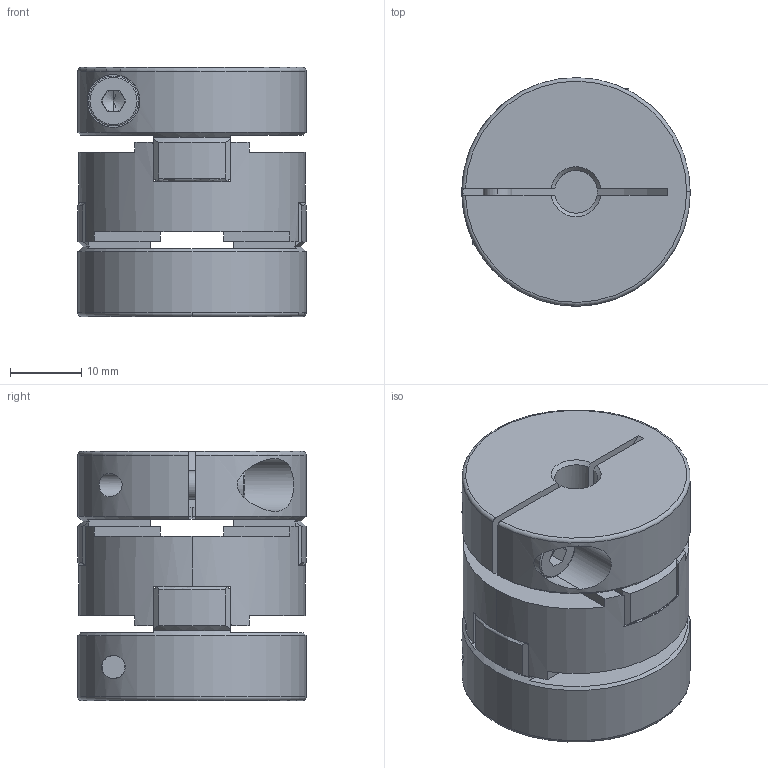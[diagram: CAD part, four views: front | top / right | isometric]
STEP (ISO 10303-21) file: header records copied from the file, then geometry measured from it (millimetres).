
FILE_DESCRIPTION (( 'STEP AP203' ), '1' );
FILE_NAME ('SOHM-32C-6X15_203.STEP', '2013-01-24T07:58:17', ( '' ), ( '' ), 'SwSTEP 2.0', 'SolidWorks 2012', '' );
FILE_SCHEMA (( 'CONFIG_CONTROL_DESIGN' ));
Length unit declared in the file: millimetre
Products named in the file (1): SOHM-32C-6X15_203
Bounding box: 32 x 32 x 34.9 mm (x, y, z)
Volume: 20444.7 mm3; surface area: 9674.1 mm2
Topology: 1 solids, 1 shells, 209 faces, 584 edges, 365 vertices
Faces by surface type: plane 102, cylinder 60, torus 24, cone 23
Entity records: 7220 total; most frequent: CARTESIAN_POINT 1780, ORIENTED_EDGE 1160, DIRECTION 1107, EDGE_CURVE 580, AXIS2_PLACEMENT_3D 408, VERTEX_POINT 365, LINE 291, VECTOR 291
